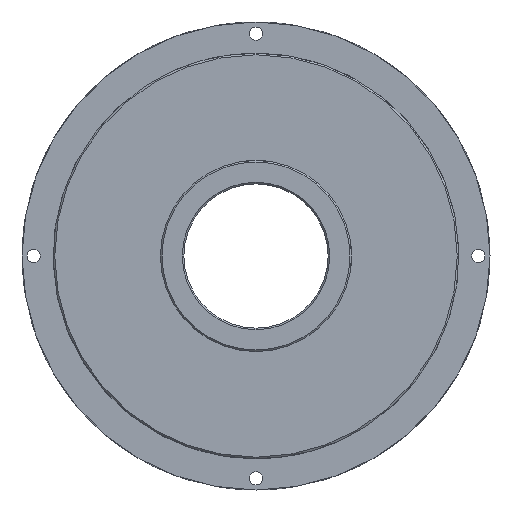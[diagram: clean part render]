
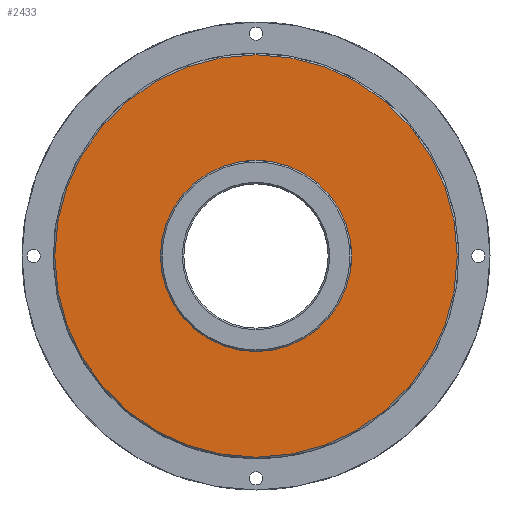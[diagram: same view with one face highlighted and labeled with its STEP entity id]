
A CAD part, front view. The second image highlights one B-rep face of the part: STEP entity #2433.
In plain terms, the highlighted planar face has unit normal (0, -1, 0).
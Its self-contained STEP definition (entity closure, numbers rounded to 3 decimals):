
#4 = AXIS2_PLACEMENT_3D ( 'NONE', #158, #1718, #1899 ) ;
#11 = AXIS2_PLACEMENT_3D ( 'NONE', #161, #367, #1317 ) ;
#158 = CARTESIAN_POINT ( 'NONE',  ( 0., -3.9, 0. ) ) ;
#161 = CARTESIAN_POINT ( 'NONE',  ( 0., -3.9, 0. ) ) ;
#167 = EDGE_CURVE ( 'NONE', #633, #2136, #503, .T. ) ;
#189 = AXIS2_PLACEMENT_3D ( 'NONE', #2255, #1485, #320 ) ;
#241 = CIRCLE ( 'NONE', #4, 12.25 ) ;
#278 = DIRECTION ( 'NONE',  ( 0., 0., 1. ) ) ;
#320 = DIRECTION ( 'NONE',  ( 0., 0., 1. ) ) ;
#367 = DIRECTION ( 'NONE',  ( 0., -1., 0. ) ) ;
#503 = CIRCLE ( 'NONE', #2276, 25.8 ) ;
#569 = VERTEX_POINT ( 'NONE', #2338 ) ;
#579 = FACE_OUTER_BOUND ( 'NONE', #1619, .T. ) ;
#633 = VERTEX_POINT ( 'NONE', #1030 ) ;
#738 = CARTESIAN_POINT ( 'NONE',  ( 0., -3.9, -25.8 ) ) ;
#750 = EDGE_LOOP ( 'NONE', ( #1330, #2234 ) ) ;
#765 = CARTESIAN_POINT ( 'NONE',  ( 0., -3.9, -12.25 ) ) ;
#840 = EDGE_CURVE ( 'NONE', #1760, #569, #1301, .T. ) ;
#871 = ORIENTED_EDGE ( 'NONE', *, *, #167, .T. ) ;
#936 = EDGE_CURVE ( 'NONE', #2136, #633, #1828, .T. ) ;
#1030 = CARTESIAN_POINT ( 'NONE',  ( 0., -3.9, 25.8 ) ) ;
#1301 = CIRCLE ( 'NONE', #189, 12.25 ) ;
#1317 = DIRECTION ( 'NONE',  ( 0., 0., 1. ) ) ;
#1330 = ORIENTED_EDGE ( 'NONE', *, *, #2011, .T. ) ;
#1485 = DIRECTION ( 'NONE',  ( 0., 1., 0. ) ) ;
#1619 = EDGE_LOOP ( 'NONE', ( #871, #2401 ) ) ;
#1639 = DIRECTION ( 'NONE',  ( 0., 1., 0. ) ) ;
#1718 = DIRECTION ( 'NONE',  ( 0., 1., 0. ) ) ;
#1749 = DIRECTION ( 'NONE',  ( 0., -1., 0. ) ) ;
#1760 = VERTEX_POINT ( 'NONE', #765 ) ;
#1828 = CIRCLE ( 'NONE', #11, 25.8 ) ;
#1838 = PLANE ( 'NONE',  #2004 ) ;
#1846 = CARTESIAN_POINT ( 'NONE',  ( 12.25, -3.9, 0. ) ) ;
#1899 = DIRECTION ( 'NONE',  ( 0., 0., 1. ) ) ;
#1951 = CARTESIAN_POINT ( 'NONE',  ( 0., -3.9, 0. ) ) ;
#2004 = AXIS2_PLACEMENT_3D ( 'NONE', #1846, #1639, #278 ) ;
#2011 = EDGE_CURVE ( 'NONE', #569, #1760, #241, .T. ) ;
#2136 = VERTEX_POINT ( 'NONE', #738 ) ;
#2234 = ORIENTED_EDGE ( 'NONE', *, *, #840, .T. ) ;
#2255 = CARTESIAN_POINT ( 'NONE',  ( 0., -3.9, 0. ) ) ;
#2276 = AXIS2_PLACEMENT_3D ( 'NONE', #1951, #1749, #2348 ) ;
#2338 = CARTESIAN_POINT ( 'NONE',  ( 0., -3.9, 12.25 ) ) ;
#2348 = DIRECTION ( 'NONE',  ( 0., 0., 1. ) ) ;
#2401 = ORIENTED_EDGE ( 'NONE', *, *, #936, .T. ) ;
#2433 = ADVANCED_FACE ( 'NONE', ( #579, #2469 ), #1838, .F. ) ;
#2469 = FACE_BOUND ( 'NONE', #750, .T. ) ;
